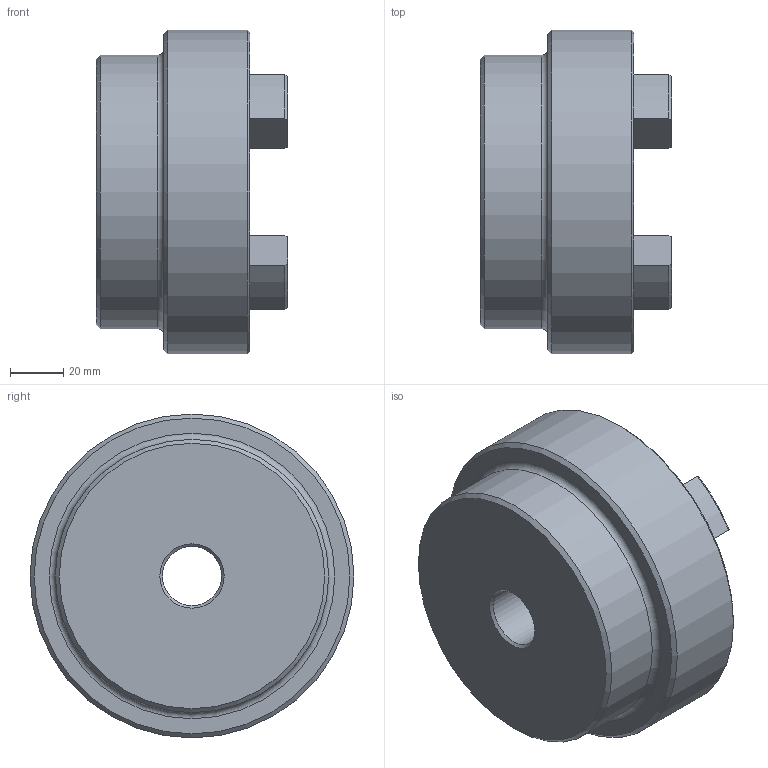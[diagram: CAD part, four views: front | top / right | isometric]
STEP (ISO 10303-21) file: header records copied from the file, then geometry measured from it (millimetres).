
FILE_DESCRIPTION (( 'STEP AP203' ), '1' );
FILE_NAME ('RC5.step', '2024-07-25T13:20:39', ( 'Adlan' ), ( '' ), 'SwSTEP 2.0', 'SolidWorks 2013', '' );
FILE_SCHEMA (( 'CONFIG_CONTROL_DESIGN' ));
Length unit declared in the file: inch
Products named in the file (1): RC5
Bounding box: 72.14 x 122.17 x 122.17 mm (x, y, z)
Volume: 463576.1 mm3; surface area: 57845.6 mm2
Topology: 1 solids, 1 shells, 76 faces, 189 edges, 117 vertices
Faces by surface type: cylinder 31, torus 17, plane 16, cone 12
Full cylindrical faces by diameter (mm): 22.233 x1, 103.124 x1, 122.174 x1
Entity records: 2349 total; most frequent: CARTESIAN_POINT 443, DIRECTION 416, ORIENTED_EDGE 358, EDGE_CURVE 179, AXIS2_PLACEMENT_3D 168, VERTEX_POINT 115, CIRCLE 91, EDGE_LOOP 88
